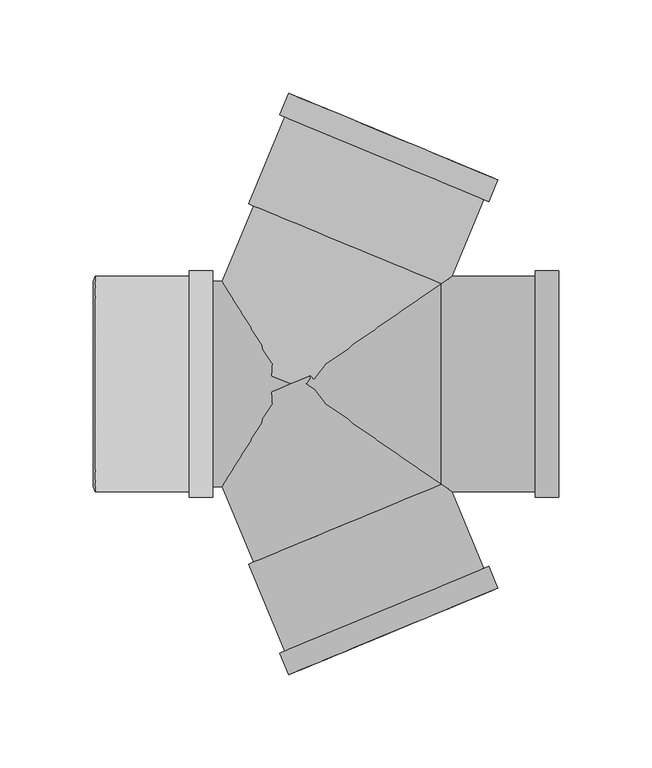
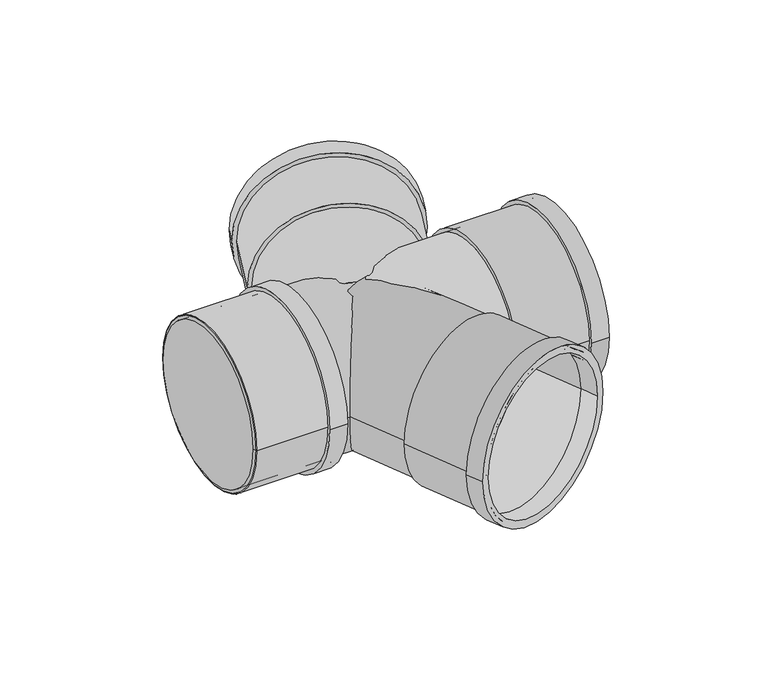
"""IFC4 building model written with IfcOpenShell, lengths in millimetres: pipe fitting geometry, Superdrain HTDA-Double Branch : Superdrain HTDA-Double Branch."""

from ifc_helpers import new_model, si_unit, point, frame, origin, origin_2d, place, context, project, spatial, polyline, circle_curve, trimmed, segment, composite_curve, outline, extrude, source, transform, mapped, element, save
from ifc_brep_helpers import plane_surface, revolved_surface, advanced_brep


def pipe_fitting_2d5d71ce(model_context):
    return source(origin(), model_context, "Body", "SolidModel", [
        extrude(outline(composite_curve([segment(trimmed(circle_curve(origin_2d(), 57.75), [point((57.75, 0.0))], [point((-57.75, 0.0))], False, "CARTESIAN"), True, "CONTINUOUS"), segment(trimmed(circle_curve(origin_2d(), 57.75), [point((-57.75, 0.0))], [point((57.75, 0.0))], False, "CARTESIAN"), True, "CONTINUOUS")], self_intersect=False), holes=[composite_curve([segment(trimmed(circle_curve(origin_2d(), 55.0), [point((55.0, 0.0))], [point((-55.0, 0.0))], True, "CARTESIAN"), True, "CONTINUOUS"), segment(trimmed(circle_curve(origin_2d(), 55.0), [point((-55.0, 0.0))], [point((55.0, 0.0))], True, "CARTESIAN"), True, "CONTINUOUS")], self_intersect=False)]), frame((-104.9, 0.0, 0.0), z_axis=(1.0, 0.0, 0.0), x_axis=(0.0, 1.0, 0.0)), (0.0, 0.0, 1.0), 63.0),
        extrude(outline(composite_curve([segment(trimmed(circle_curve(origin_2d(), 60.6375), [point((60.6375, 0.0))], [point((-60.6375, 0.0))], False, "CARTESIAN"), True, "CONTINUOUS"), segment(trimmed(circle_curve(origin_2d(), 60.6375), [point((-60.6375, 0.0))], [point((60.6375, 0.0))], False, "CARTESIAN"), True, "CONTINUOUS")], self_intersect=False), holes=[composite_curve([segment(trimmed(circle_curve(origin_2d(), 55.0), [point((55.0, 0.0))], [point((-55.0, 0.0))], True, "CARTESIAN"), True, "CONTINUOUS"), segment(trimmed(circle_curve(origin_2d(), 55.0), [point((-55.0, 0.0))], [point((55.0, 0.0))], True, "CARTESIAN"), True, "CONTINUOUS")], self_intersect=False)]), frame((-54.5, 0.0, 0.0), z_axis=(1.0, 0.0, 0.0), x_axis=(0.0, 1.0, 0.0)), (0.0, 0.0, 1.0), 12.6),
        advanced_brep(
        [(-105.9, 55.0, 0.0), (-105.9, -55.0, 0.0), (-104.9, 57.75, 0.0), (-104.9, -57.75, 0.0)],
        [
            (0, 1, circle_curve(frame((-105.9, 0.0, 0.0), z_axis=(-1.0, 0.0, 0.0), x_axis=(0.0, 1.0, 0.0)), 55.0)),
            (1, 0, circle_curve(frame((-105.9, 0.0, 0.0), z_axis=(-1.0, 0.0, 0.0), x_axis=(0.0, -1.0, 0.0)), 55.0)),
            (2, 3, circle_curve(frame((-104.9, 0.0, 0.0), z_axis=(1.0, 0.0, 0.0), x_axis=(0.0, -1.0, 0.0)), 57.75)),
            (3, 2, circle_curve(frame((-104.9, 0.0, 0.0), z_axis=(1.0, 0.0, 0.0), x_axis=(0.0, 1.0, 0.0)), 57.75)),
            (3, 1),
            (0, 2),
        ],
        [
            plane_surface(frame((-105.9, 0.0, 0.0), z_axis=(-1.0, 0.0, 0.0), x_axis=(0.0, 0.0, -1.0))),
            plane_surface(frame((-104.9, 0.0, 0.0), z_axis=(1.0, 0.0, 0.0), x_axis=(0.0, 0.0, -1.0))),
            revolved_surface(polyline([(-105.9, 55.0, 0.0), (-104.9, 57.75, 0.0)]), (-125.9, 0.0, 0.0), (1.0, 0.0, 0.0)),
            revolved_surface(polyline([(-105.9, -55.0, 0.0), (-104.9, -57.75, 0.0)]), (-125.9, 0.0, 0.0), (1.0, 0.0, 0.0)),
        ],
        [
            (0, [[1, 2]]),
            (1, [[3, 4]]),
            (2, [[-4, 5, -1, 6]]),
            (3, [[-3, -6, -2, -5]]),
        ],
    ),
        extrude(outline(composite_curve([segment(trimmed(circle_curve(origin_2d(), 60.6375), [point((0.0, -60.6375))], [point((0.0, 60.6375))], False, "CARTESIAN"), True, "CONTINUOUS"), segment(trimmed(circle_curve(origin_2d(), 60.6375), [point((0.0, 60.6375))], [point((0.0, -60.6375))], False, "CARTESIAN"), True, "CONTINUOUS")], self_intersect=False), holes=[composite_curve([segment(trimmed(circle_curve(origin_2d(), 55.0), [point((0.0, -55.0))], [point((0.0, 55.0))], True, "CARTESIAN"), True, "CONTINUOUS"), segment(trimmed(circle_curve(origin_2d(), 55.0), [point((0.0, 55.0))], [point((0.0, -55.0))], True, "CARTESIAN"), True, "CONTINUOUS")], self_intersect=False)]), frame((54.9533409, -132.6691009, 0.0), z_axis=(-0.38268343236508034, 0.9238795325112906, 0.0), x_axis=(0.0, 0.0, 1.0)), (0.0, 0.0, 1.0), 12.6),
        extrude(outline(composite_curve([segment(trimmed(circle_curve(origin_2d(), 57.75), [point((0.0, -57.75))], [point((0.0, 57.75))], False, "CARTESIAN"), True, "CONTINUOUS"), segment(trimmed(circle_curve(origin_2d(), 57.75), [point((0.0, 57.75))], [point((0.0, -57.75))], False, "CARTESIAN"), True, "CONTINUOUS")], self_intersect=False), holes=[composite_curve([segment(trimmed(circle_curve(origin_2d(), 55.0), [point((0.0, -55.0))], [point((0.0, 55.0))], True, "CARTESIAN"), True, "CONTINUOUS"), segment(trimmed(circle_curve(origin_2d(), 55.0), [point((0.0, 55.0))], [point((0.0, -55.0))], True, "CARTESIAN"), True, "CONTINUOUS")], self_intersect=False)]), frame((54.9533409, -132.6691009, 0.0), z_axis=(-0.38268343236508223, 0.92387953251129, 0.0), x_axis=(0.0, 0.0, 1.0)), (0.0, 0.0, 1.0), 63.0),
        extrude(outline(composite_curve([segment(trimmed(circle_curve(origin_2d(), 55.0), [point((0.0, -54.9999999))], [point((0.0, 55.0))], False, "CARTESIAN"), True, "CONTINUOUS"), segment(trimmed(circle_curve(origin_2d(), 55.0), [point((0.0, 55.0))], [point((0.0, -54.9999999))], False, "CARTESIAN"), True, "CONTINUOUS")], self_intersect=False)), frame((30.8442846, -74.4646903, 0.0), z_axis=(-0.3826834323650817, 0.9238795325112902, 0.0), x_axis=(0.0, 0.0, 1.0)), (0.0, 0.0, 1.0), 80.6),
        extrude(outline(composite_curve([segment(trimmed(circle_curve(origin_2d(), 60.6375), [point((0.0, 60.6375001))], [point((0.0, -60.6374999))], False, "CARTESIAN"), True, "CONTINUOUS"), segment(trimmed(circle_curve(origin_2d(), 60.6375), [point((0.0, -60.6374999))], [point((0.0, 60.6375001))], False, "CARTESIAN"), True, "CONTINUOUS")], self_intersect=False), holes=[composite_curve([segment(trimmed(circle_curve(origin_2d(), 55.0), [point((0.0, 55.0))], [point((0.0, -54.9999999))], True, "CARTESIAN"), True, "CONTINUOUS"), segment(trimmed(circle_curve(origin_2d(), 55.0), [point((0.0, -54.9999999))], [point((0.0, 55.0))], True, "CARTESIAN"), True, "CONTINUOUS")], self_intersect=False)]), frame((50.1315296, 121.0282188, 0.0), z_axis=(0.3826834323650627, 0.9238795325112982, 0.0), x_axis=(0.0, 0.0, 1.0)), (0.0, 0.0, 1.0), 12.6),
        extrude(outline(composite_curve([segment(trimmed(circle_curve(origin_2d(), 57.75), [point((0.0, 57.7500001))], [point((0.0, -57.75))], False, "CARTESIAN"), True, "CONTINUOUS"), segment(trimmed(circle_curve(origin_2d(), 57.75), [point((0.0, -57.75))], [point((0.0, 57.7500001))], False, "CARTESIAN"), True, "CONTINUOUS")], self_intersect=False), holes=[composite_curve([segment(trimmed(circle_curve(origin_2d(), 55.0), [point((0.0, 55.0))], [point((0.0, -54.9999999))], True, "CARTESIAN"), True, "CONTINUOUS"), segment(trimmed(circle_curve(origin_2d(), 55.0), [point((0.0, -54.9999999))], [point((0.0, 55.0))], True, "CARTESIAN"), True, "CONTINUOUS")], self_intersect=False)]), frame((30.8442846, 74.4646903, 0.0), z_axis=(0.3826834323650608, 0.9238795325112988, 0.0), x_axis=(0.0, 0.0, 1.0)), (0.0, 0.0, 1.0), 63.0),
        extrude(outline(composite_curve([segment(trimmed(circle_curve(origin_2d(), 55.0), [point((0.0, 55.0))], [point((0.0, -55.0))], False, "CARTESIAN"), True, "CONTINUOUS"), segment(trimmed(circle_curve(origin_2d(), 55.0), [point((0.0, -55.0))], [point((0.0, 55.0))], False, "CARTESIAN"), True, "CONTINUOUS")], self_intersect=False)), frame((0.0, 0.0, 0.0), z_axis=(0.3826834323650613, 0.9238795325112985, 0.0), x_axis=(0.0, 0.0, 1.0)), (0.0, 0.0, 1.0), 80.6),
        extrude(outline(composite_curve([segment(trimmed(circle_curve(origin_2d(), 60.6375), [point((-60.6375, 0.0))], [point((60.6375, 0.0))], False, "CARTESIAN"), True, "CONTINUOUS"), segment(trimmed(circle_curve(origin_2d(), 60.6375), [point((60.6375, 0.0))], [point((-60.6375, 0.0))], False, "CARTESIAN"), True, "CONTINUOUS")], self_intersect=False), holes=[composite_curve([segment(trimmed(circle_curve(origin_2d(), 57.75), [point((-57.75, 0.0))], [point((57.75, 0.0))], True, "CARTESIAN"), True, "CONTINUOUS"), segment(trimmed(circle_curve(origin_2d(), 57.75), [point((57.75, 0.0))], [point((-57.75, 0.0))], True, "CARTESIAN"), True, "CONTINUOUS")], self_intersect=False)]), frame((131.0, 0.0, 0.0), z_axis=(1.0, 0.0, 0.0), x_axis=(0.0, 1.0, 0.0)), (0.0, 0.0, 1.0), 12.6),
        extrude(outline(composite_curve([segment(trimmed(circle_curve(origin_2d(), 57.75), [point((-57.75, 0.0))], [point((57.75, 0.0))], False, "CARTESIAN"), True, "CONTINUOUS"), segment(trimmed(circle_curve(origin_2d(), 57.75), [point((57.75, 0.0))], [point((-57.75, 0.0))], False, "CARTESIAN"), True, "CONTINUOUS")], self_intersect=False), holes=[composite_curve([segment(trimmed(circle_curve(origin_2d(), 55.0), [point((-55.0, 0.0))], [point((55.0, 0.0))], True, "CARTESIAN"), True, "CONTINUOUS"), segment(trimmed(circle_curve(origin_2d(), 55.0), [point((55.0, 0.0))], [point((-55.0, 0.0))], True, "CARTESIAN"), True, "CONTINUOUS")], self_intersect=False)]), frame((80.6, 0.0, 0.0), z_axis=(1.0, 0.0, 0.0), x_axis=(0.0, 1.0, 0.0)), (0.0, 0.0, 1.0), 63.0),
        extrude(outline(composite_curve([segment(trimmed(circle_curve(origin_2d(), 55.0), [point((-55.0, 0.0))], [point((55.0, 0.0))], False, "CARTESIAN"), True, "CONTINUOUS"), segment(trimmed(circle_curve(origin_2d(), 55.0), [point((55.0, 0.0))], [point((-55.0, 0.0))], False, "CARTESIAN"), True, "CONTINUOUS")], self_intersect=False)), frame((0.0, 0.0, 0.0), z_axis=(1.0, 0.0, 0.0), x_axis=(0.0, 1.0, 0.0)), (0.0, 0.0, 1.0), 80.6),
        extrude(outline(composite_curve([segment(trimmed(circle_curve(origin_2d(), 55.0), [point((-55.0, 0.0))], [point((55.0, 0.0))], False, "CARTESIAN"), True, "CONTINUOUS"), segment(trimmed(circle_curve(origin_2d(), 55.0), [point((55.0, 0.0))], [point((-55.0, 0.0))], False, "CARTESIAN"), True, "CONTINUOUS")], self_intersect=False)), frame((-104.9, 0.0, 0.0), z_axis=(1.0, 0.0, 0.0), x_axis=(0.0, 1.0, 0.0)), (0.0, 0.0, 1.0), 104.9),
    ])


if __name__ == "__main__":
    model = new_model("IFC4")
    model_context = context("Model", 3, world=origin())
    ifc_project = project(units=[si_unit("LENGTHUNIT", "METRE", prefix="MILLI")], contexts=[model_context])
    site = spatial("IfcSite", under=ifc_project)
    building = spatial("IfcBuilding", under=site)
    placement = place(None, origin())
    pipe_fitting_shape = pipe_fitting_2d5d71ce(model_context)
    element("IfcPipeFitting", 1, ObjectType="Superdrain HTDA-Double Branch : Superdrain HTDA-Double Branch", at=placement, inside=building, context=model_context, shape_type="MappedRepresentation", body=[
        mapped(pipe_fitting_shape, transform((0.0, 0.0, 0.0), x_axis=(1.0, 0.0, 0.0), y_axis=(0.0, 1.0, 0.0), z_axis=(0.0, 0.0, 1.0))),
    ])
    save(model, "model.ifc")
